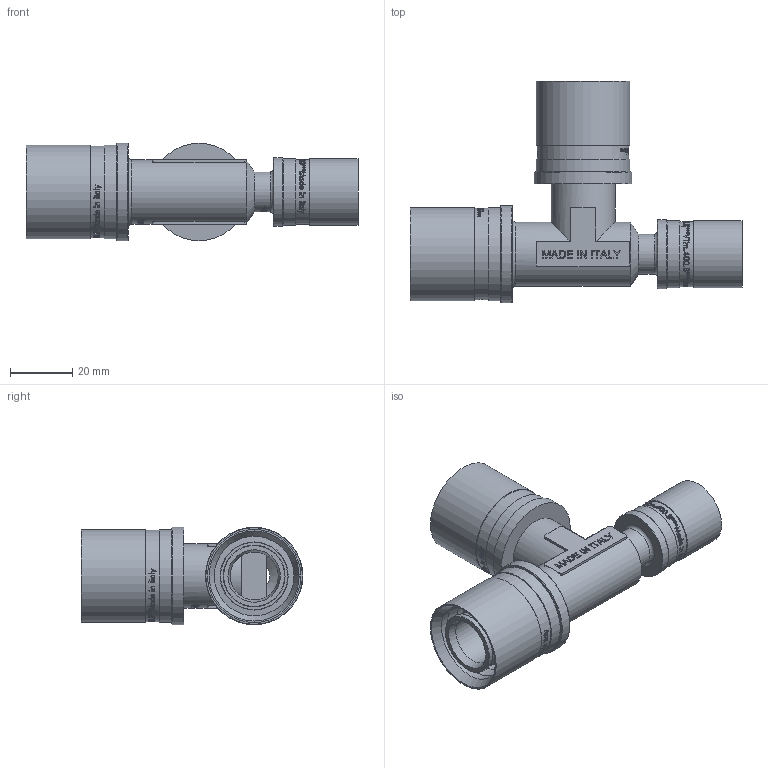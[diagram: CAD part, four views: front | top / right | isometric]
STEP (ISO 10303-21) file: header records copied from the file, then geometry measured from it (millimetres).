
FILE_DESCRIPTION(/* description */ (''),/* implementation_level */ '2;1');
FILE_NAME(/* name */ 'F:\Артём\00000\Работа удаленка\Аксеальные фитинги\VTm.431.BG.252516.stp',/* time_stamp */ '2021-01-26T12:58:35+03:00',/* author */ ('almis'),/* organization */ (''),/* preprocessor_version */ 'ST-DEVELOPER v18',/* originating_system */ 'Autodesk Inventor 2020',/* authorisation */ '');
FILE_SCHEMA (('AUTOMOTIVE_DESIGN { 1 0 10303 214 3 1 1 }'));
Length unit declared in the file: millimetre
Products named in the file (1): VTm.403.BG.001616
Bounding box: 106.32 x 71.01 x 31.2 mm (x, y, z)
Volume: 37239.7 mm3; surface area: 32379.9 mm2
Topology: 1 solids, 3 shells, 2493 faces, 6832 edges, 4593 vertices
Faces by surface type: bspline 1264, plane 891, cylinder 271, torus 46, cone 21
Full cylindrical faces by diameter (mm): 10 x1, 12.8 x6, 13.4 x4, 15 x1, 15.4 x1, 15.5 x1, 16.9 x2, 18.3 x10, 19.8 x8, 20.5 x2, 20.8 x1, 21.4 x2, 21.8 x2, 22 x1, 25.5 x4, 29.3 x2, 29.85 x4, 31.2 x2
Entity records: 103003 total; most frequent: CARTESIAN_POINT 47149, ORIENTED_EDGE 13664, DIRECTION 7911, EDGE_CURVE 6832, VERTEX_POINT 4593, LINE 3091, VECTOR 3091, EDGE_LOOP 2743
